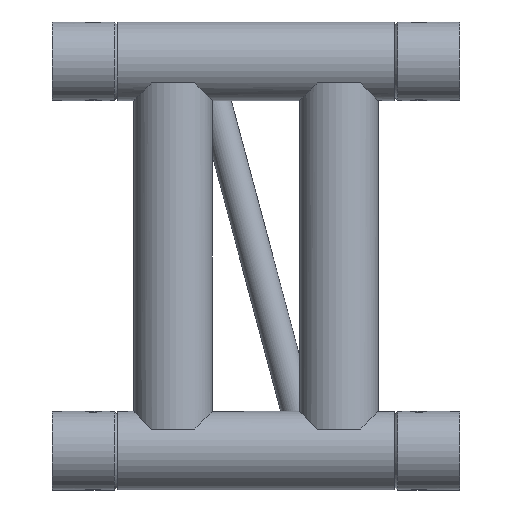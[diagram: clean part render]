
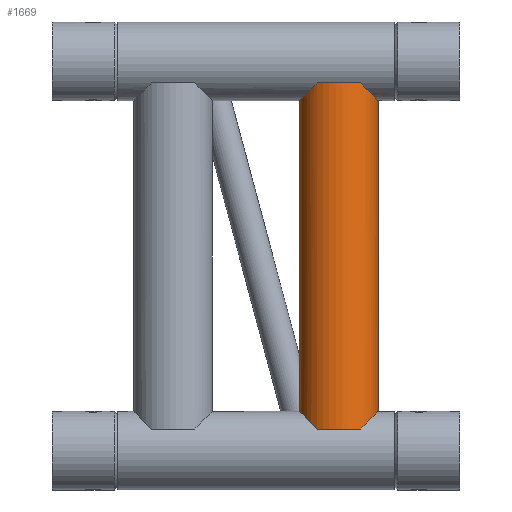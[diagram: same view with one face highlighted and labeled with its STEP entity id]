
A CAD part, front view. The second image highlights one B-rep face of the part: STEP entity #1669.
In plain terms, the highlighted cylindrical face has radius 24.15 mm (diameter 48.3 mm), a full revolution.
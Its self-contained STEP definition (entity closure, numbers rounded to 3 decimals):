
#86=FACE_BOUND('',#386,.T.);
#177=B_SPLINE_CURVE_WITH_KNOTS('',3,(#2619,#2620,#2621,#2622,#2623,#2624,
#2625,#2626,#2627,#2628,#2629,#2630,#2631,#2632,#2633,#2634,#2635,#2636,
#2637,#2638,#2639,#2640),.UNSPECIFIED.,.F.,.F.,(4,2,2,2,2,2,2,2,2,2,4),
(2.68,3.039,3.447,3.855,4.02,
4.186,4.352,4.517,4.867,5.217,
5.696),.UNSPECIFIED.);
#223=CYLINDRICAL_SURFACE('',#1808,24.15);
#272=FACE_OUTER_BOUND('',#385,.T.);
#385=EDGE_LOOP('',(#1108,#1109,#1110,#1111,#1112,#1113));
#386=EDGE_LOOP('',(#1114,#1115,#1116,#1117));
#568=ELLIPSE('',#1807,41.912,24.15);
#569=ELLIPSE('',#1809,34.153,24.15);
#570=ELLIPSE('',#1811,34.153,24.15);
#571=ELLIPSE('',#1813,34.153,24.15);
#572=ELLIPSE('',#1815,34.153,24.15);
#609=CIRCLE('',#1810,24.15);
#610=CIRCLE('',#1812,24.15);
#611=CIRCLE('',#1814,24.15);
#612=CIRCLE('',#1816,24.15);
#705=VERTEX_POINT('',#2617);
#706=VERTEX_POINT('',#2618);
#715=VERTEX_POINT('',#2673);
#716=VERTEX_POINT('',#2677);
#717=VERTEX_POINT('',#2679);
#718=VERTEX_POINT('',#2681);
#719=VERTEX_POINT('',#2684);
#720=VERTEX_POINT('',#2685);
#721=VERTEX_POINT('',#2687);
#722=VERTEX_POINT('',#2689);
#867=EDGE_CURVE('',#705,#706,#177,.T.);
#881=EDGE_CURVE('',#706,#715,#568,.T.);
#883=EDGE_CURVE('',#716,#715,#569,.T.);
#884=EDGE_CURVE('',#717,#716,#609,.T.);
#885=EDGE_CURVE('',#718,#717,#570,.T.);
#886=EDGE_CURVE('',#705,#718,#610,.T.);
#887=EDGE_CURVE('',#719,#720,#571,.T.);
#888=EDGE_CURVE('',#721,#719,#611,.T.);
#889=EDGE_CURVE('',#722,#721,#572,.T.);
#890=EDGE_CURVE('',#720,#722,#612,.T.);
#1108=ORIENTED_EDGE('',*,*,#867,.T.);
#1109=ORIENTED_EDGE('',*,*,#881,.T.);
#1110=ORIENTED_EDGE('',*,*,#883,.F.);
#1111=ORIENTED_EDGE('',*,*,#884,.F.);
#1112=ORIENTED_EDGE('',*,*,#885,.F.);
#1113=ORIENTED_EDGE('',*,*,#886,.F.);
#1114=ORIENTED_EDGE('',*,*,#887,.F.);
#1115=ORIENTED_EDGE('',*,*,#888,.F.);
#1116=ORIENTED_EDGE('',*,*,#889,.F.);
#1117=ORIENTED_EDGE('',*,*,#890,.F.);
#1669=ADVANCED_FACE('',(#272,#86),#223,.T.);
#1807=AXIS2_PLACEMENT_3D('',#2674,#2097,#2098);
#1808=AXIS2_PLACEMENT_3D('',#2676,#2100,#2101);
#1809=AXIS2_PLACEMENT_3D('',#2678,#2102,#2103);
#1810=AXIS2_PLACEMENT_3D('',#2680,#2104,#2105);
#1811=AXIS2_PLACEMENT_3D('',#2682,#2106,#2107);
#1812=AXIS2_PLACEMENT_3D('',#2683,#2108,#2109);
#1813=AXIS2_PLACEMENT_3D('',#2686,#2110,#2111);
#1814=AXIS2_PLACEMENT_3D('',#2688,#2112,#2113);
#1815=AXIS2_PLACEMENT_3D('',#2690,#2114,#2115);
#1816=AXIS2_PLACEMENT_3D('',#2691,#2116,#2117);
#2097=DIRECTION('center_axis',(0.,-0.817,0.576));
#2098=DIRECTION('ref_axis',(0.,-0.576,-0.817));
#2100=DIRECTION('center_axis',(0.,0.,1.));
#2101=DIRECTION('ref_axis',(-1.,0.,0.));
#2102=DIRECTION('center_axis',(0.707,0.,0.707));
#2103=DIRECTION('ref_axis',(-0.707,0.,0.707));
#2104=DIRECTION('center_axis',(0.,0.,1.));
#2105=DIRECTION('ref_axis',(-1.,0.,0.));
#2106=DIRECTION('center_axis',(-0.707,0.,0.707));
#2107=DIRECTION('ref_axis',(-0.707,0.,-0.707));
#2108=DIRECTION('center_axis',(0.,0.,1.));
#2109=DIRECTION('ref_axis',(-1.,0.,0.));
#2110=DIRECTION('center_axis',(0.707,0.,-0.707));
#2111=DIRECTION('ref_axis',(-0.707,0.,-0.707));
#2112=DIRECTION('center_axis',(0.,0.,-1.));
#2113=DIRECTION('ref_axis',(-1.,0.,0.));
#2114=DIRECTION('center_axis',(-0.707,0.,-0.707));
#2115=DIRECTION('ref_axis',(-0.707,0.,0.707));
#2116=DIRECTION('center_axis',(0.,0.,-1.));
#2117=DIRECTION('ref_axis',(-1.,0.,0.));
#2617=CARTESIAN_POINT('',(180.434,23.711,-13.15));
#2618=CARTESIAN_POINT('',(195.128,14.545,-20.759));
#2619=CARTESIAN_POINT('Ctrl Pts',(180.434,23.711,-13.15));
#2620=CARTESIAN_POINT('Ctrl Pts',(180.145,23.767,-14.351));
#2621=CARTESIAN_POINT('Ctrl Pts',(180.,23.791,-15.575));
#2622=CARTESIAN_POINT('Ctrl Pts',(180.,23.791,-18.133));
#2623=CARTESIAN_POINT('Ctrl Pts',(180.195,23.76,-19.606));
#2624=CARTESIAN_POINT('Ctrl Pts',(181.076,23.582,-22.355));
#2625=CARTESIAN_POINT('Ctrl Pts',(181.758,23.435,-23.633));
#2626=CARTESIAN_POINT('Ctrl Pts',(183.007,23.068,-25.034));
#2627=CARTESIAN_POINT('Ctrl Pts',(183.418,22.938,-25.41));
#2628=CARTESIAN_POINT('Ctrl Pts',(184.315,22.623,-26.039));
#2629=CARTESIAN_POINT('Ctrl Pts',(184.8,22.437,-26.293));
#2630=CARTESIAN_POINT('Ctrl Pts',(185.801,22.011,-26.644));
#2631=CARTESIAN_POINT('Ctrl Pts',(186.318,21.771,-26.743));
#2632=CARTESIAN_POINT('Ctrl Pts',(187.334,21.252,-26.794));
#2633=CARTESIAN_POINT('Ctrl Pts',(187.833,20.975,-26.746));
#2634=CARTESIAN_POINT('Ctrl Pts',(189.281,20.104,-26.438));
#2635=CARTESIAN_POINT('Ctrl Pts',(190.103,19.519,-26.03));
#2636=CARTESIAN_POINT('Ctrl Pts',(191.595,18.336,-25.041));
#2637=CARTESIAN_POINT('Ctrl Pts',(192.26,17.739,-24.451));
#2638=CARTESIAN_POINT('Ctrl Pts',(193.718,16.29,-22.894));
#2639=CARTESIAN_POINT('Ctrl Pts',(194.461,15.43,-21.871));
#2640=CARTESIAN_POINT('Ctrl Pts',(195.128,14.545,-20.759));
#2673=CARTESIAN_POINT('',(192.697,17.304,-16.847));
#2674=CARTESIAN_POINT('Origin',(175.85,0.,-41.39));
#2676=CARTESIAN_POINT('Origin',(175.85,0.,-225.85));
#2677=CARTESIAN_POINT('',(189.,-20.256,-13.15));
#2678=CARTESIAN_POINT('Origin',(175.85,0.,0.));
#2679=CARTESIAN_POINT('',(162.7,-20.256,-13.15));
#2680=CARTESIAN_POINT('Origin',(175.85,0.,-13.15));
#2681=CARTESIAN_POINT('',(162.7,20.256,-13.15));
#2682=CARTESIAN_POINT('Origin',(175.85,0.,0.));
#2683=CARTESIAN_POINT('Origin',(175.85,0.,-13.15));
#2684=CARTESIAN_POINT('',(189.,20.256,-225.85));
#2685=CARTESIAN_POINT('',(189.,-20.256,-225.85));
#2686=CARTESIAN_POINT('Origin',(175.85,0.,-239.));
#2687=CARTESIAN_POINT('',(162.7,20.256,-225.85));
#2688=CARTESIAN_POINT('Origin',(175.85,0.,-225.85));
#2689=CARTESIAN_POINT('',(162.7,-20.256,-225.85));
#2690=CARTESIAN_POINT('Origin',(175.85,0.,-239.));
#2691=CARTESIAN_POINT('Origin',(175.85,0.,-225.85));
